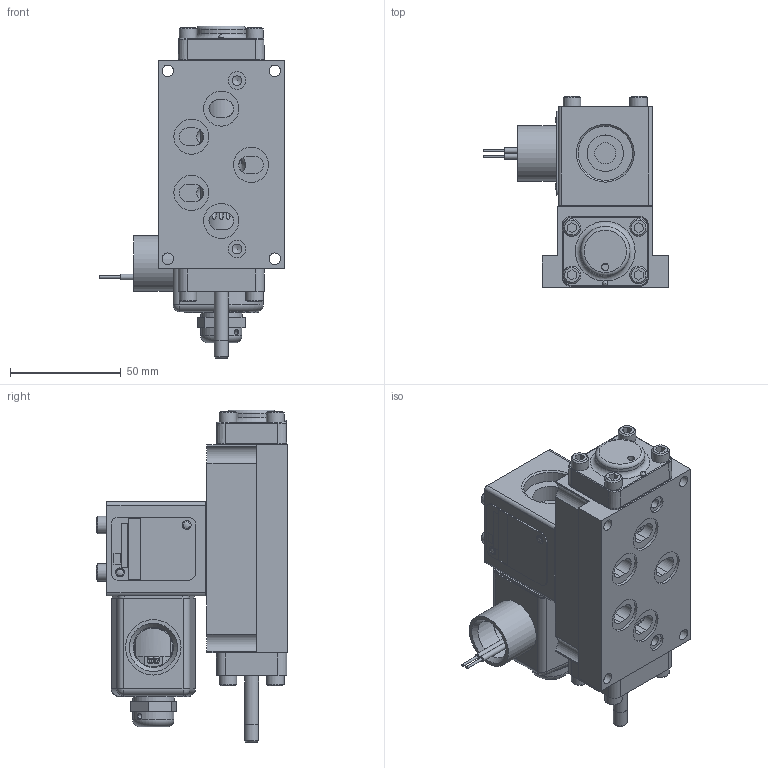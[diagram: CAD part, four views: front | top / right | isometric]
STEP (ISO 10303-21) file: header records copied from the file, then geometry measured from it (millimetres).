
FILE_DESCRIPTION(/* description */ (''),/* implementation_level */ '2;1');
FILE_NAME(/* name */ 'D:\Website New\Valves\Classic\SO\stp\SO3PLK.stp',/* time_stamp */ '2020-01-28T10:56:37-05:00',/* author */ ('RMcKenna'),/* organization */ (''),/* preprocessor_version */ 'ST-DEVELOPER v17',/* originating_system */ 'Autodesk Inventor 2018',/* authorisation */ '');
FILE_SCHEMA (('AUTOMOTIVE_DESIGN { 1 0 10303 214 3 1 1 }'));
Length unit declared in the file: centimetre
Products named in the file (1): Part15
Bounding box: 83.63 x 86.58 x 150.18 mm (x, y, z)
Volume: 281610.2 mm3; surface area: 99360.6 mm2
Topology: 1 solids, 35 shells, 1357 faces, 3275 edges, 2103 vertices
Faces by surface type: plane 589, cylinder 306, cone 269, torus 119, bspline 67, sphere 7
Full cylindrical faces by diameter (mm): 1.168 x2, 1.727 x3, 2.07 x2, 2.261 x2, 2.381 x2, 2.54 x2, 2.778 x2, 3.048 x2, 3.175 x3, 3.683 x12, 3.912 x1, 3.969 x1, 4.366 x9, 4.369 x3, 4.826 x16, 5.105 x4, 5.156 x8, 5.159 x9, 5.537 x5, 6.35 x3, 7.671 x1, 7.925 x2, 7.938 x12, 7.95 x1, 8.153 x1, 9.474 x2, 9.922 x1, 11.113 x1, 11.303 x2, 11.328 x1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
Entity records: 45444 total; most frequent: CARTESIAN_POINT 12265, DIRECTION 6640, ORIENTED_EDGE 6500, EDGE_CURVE 3250, AXIS2_PLACEMENT_3D 2562, VERTEX_POINT 2105, EDGE_LOOP 1573, LINE 1516
